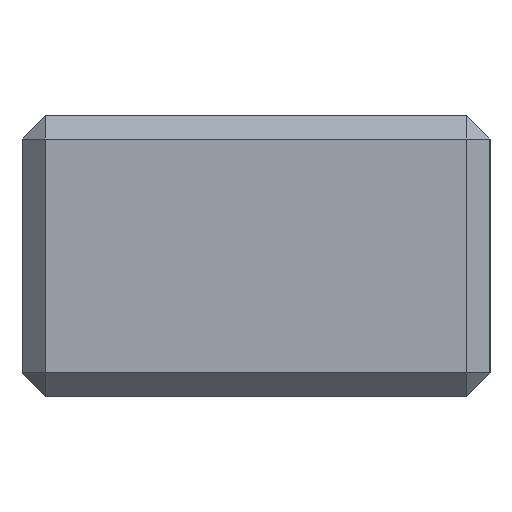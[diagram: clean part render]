
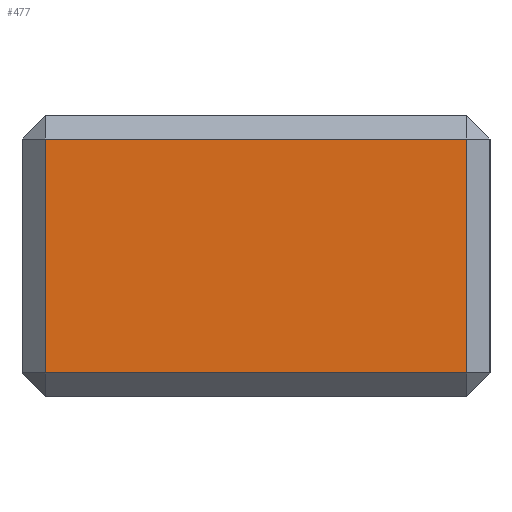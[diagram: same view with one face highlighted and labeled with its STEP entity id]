
A CAD part, left-side view. The second image highlights one B-rep face of the part: STEP entity #477.
In plain terms, the highlighted planar face has unit normal (-1, 0, 0).
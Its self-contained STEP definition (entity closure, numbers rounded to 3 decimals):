
#48 = LINE ( 'NONE', #89, #564 ) ;
#59 = FACE_OUTER_BOUND ( 'NONE', #898, .T. ) ;
#89 = CARTESIAN_POINT ( 'NONE',  ( -40., 9., 12. ) ) ;
#120 = DIRECTION ( 'NONE',  ( 0., 0., -1. ) ) ;
#122 = CARTESIAN_POINT ( 'NONE',  ( -40., -10., 1. ) ) ;
#127 = DIRECTION ( 'NONE',  ( 0., 1., 0. ) ) ;
#137 = CARTESIAN_POINT ( 'NONE',  ( -40., 10., 11. ) ) ;
#151 = VERTEX_POINT ( 'NONE', #368 ) ;
#246 = EDGE_CURVE ( 'NONE', #398, #151, #1025, .T. ) ;
#252 = CARTESIAN_POINT ( 'NONE',  ( -40., 9., 11. ) ) ;
#265 = DIRECTION ( 'NONE',  ( 0., -1., 0. ) ) ;
#359 = PLANE ( 'NONE',  #916 ) ;
#368 = CARTESIAN_POINT ( 'NONE',  ( -40., -9., 1. ) ) ;
#398 = VERTEX_POINT ( 'NONE', #774 ) ;
#473 = DIRECTION ( 'NONE',  ( 0., 0., -1. ) ) ;
#477 = ADVANCED_FACE ( 'NONE', ( #59 ), #359, .F. ) ;
#492 = LINE ( 'NONE', #806, #1126 ) ;
#496 = EDGE_CURVE ( 'NONE', #151, #620, #492, .T. ) ;
#564 = VECTOR ( 'NONE', #120, 1000. ) ;
#580 = VECTOR ( 'NONE', #265, 1000. ) ;
#603 = CARTESIAN_POINT ( 'NONE',  ( -40., -10., 12. ) ) ;
#620 = VERTEX_POINT ( 'NONE', #956 ) ;
#631 = DIRECTION ( 'NONE',  ( 0., 0., 1. ) ) ;
#635 = DIRECTION ( 'NONE',  ( 1., 0., 0. ) ) ;
#744 = VECTOR ( 'NONE', #127, 1000. ) ;
#774 = CARTESIAN_POINT ( 'NONE',  ( -40., 9., 1. ) ) ;
#806 = CARTESIAN_POINT ( 'NONE',  ( -40., -9., 12. ) ) ;
#807 = ORIENTED_EDGE ( 'NONE', *, *, #246, .T. ) ;
#824 = ORIENTED_EDGE ( 'NONE', *, *, #496, .T. ) ;
#833 = EDGE_CURVE ( 'NONE', #620, #1151, #973, .T. ) ;
#898 = EDGE_LOOP ( 'NONE', ( #1034, #807, #824, #1037 ) ) ;
#916 = AXIS2_PLACEMENT_3D ( 'NONE', #603, #635, #473 ) ;
#956 = CARTESIAN_POINT ( 'NONE',  ( -40., -9., 11. ) ) ;
#973 = LINE ( 'NONE', #137, #744 ) ;
#1025 = LINE ( 'NONE', #122, #580 ) ;
#1034 = ORIENTED_EDGE ( 'NONE', *, *, #1068, .T. ) ;
#1037 = ORIENTED_EDGE ( 'NONE', *, *, #833, .T. ) ;
#1068 = EDGE_CURVE ( 'NONE', #1151, #398, #48, .T. ) ;
#1126 = VECTOR ( 'NONE', #631, 1000. ) ;
#1151 = VERTEX_POINT ( 'NONE', #252 ) ;
